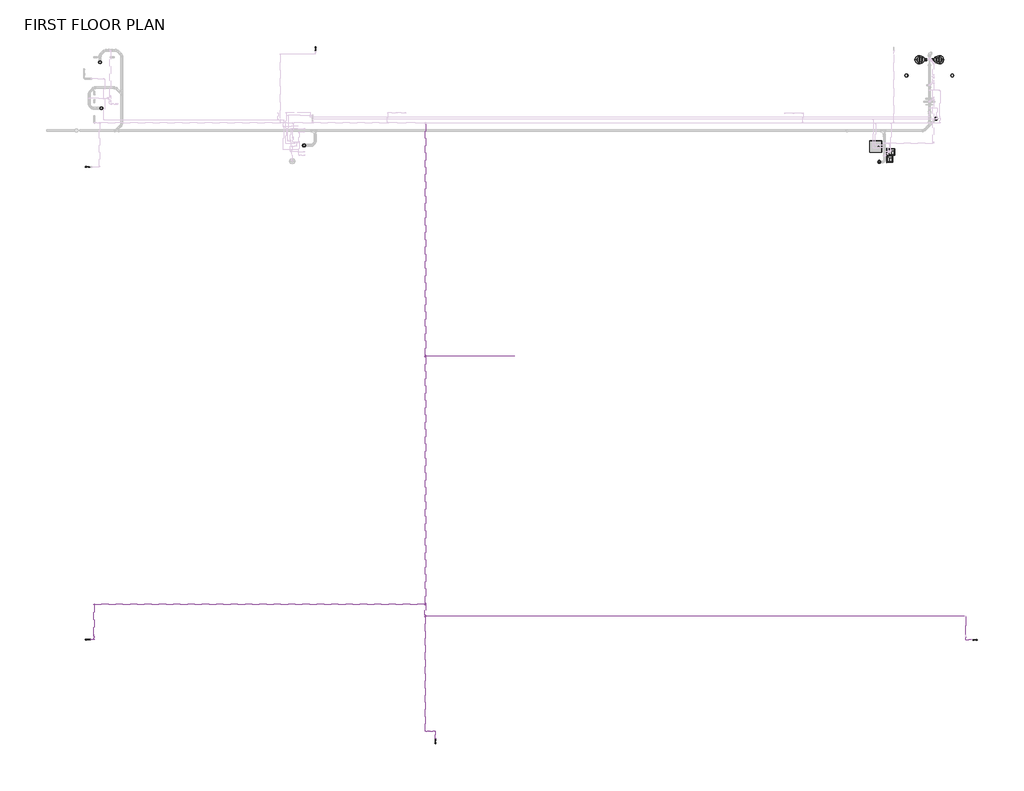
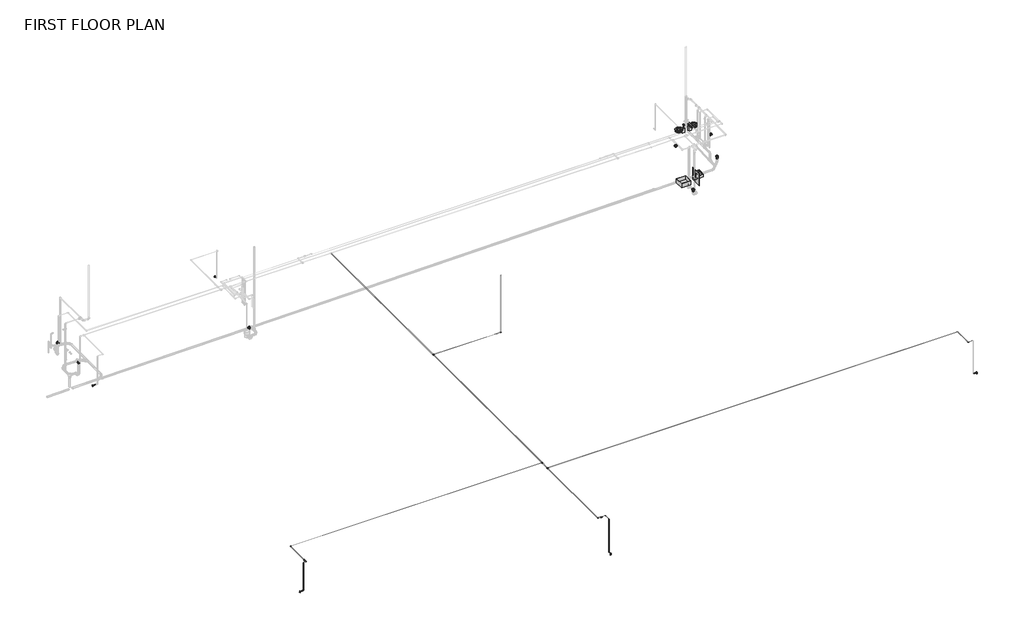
# One storey, part 1 of 9: 24 pipe fittings, 22 pipe segments, 16 flow terminals.
"""IFC4 building model written with IfcOpenShell, lengths in millimetres."""

from ifc_helpers import new_model, si_unit, point, frame, frame_2d, origin, place, context, project, spatial, circle_curve, trimmed, segment, composite_curve, outline, extrude, transform, mapped, element, save
from ifc_brep_helpers import plane_surface, cylinder_surface, advanced_brep
from components import flow_terminal_489f333d, flow_terminal_d4e15b29, flow_terminal_13f0a478, flow_terminal_5c41af1d, flow_terminal_15068827, floor_cleanout_zurn_zn1400_ic_d83c3ab9, flow_terminal_99821c54, flow_terminal_257a6d76, flow_terminal_48090491, flow_terminal_a41eccac, pipe_elbow_copper_k_feaaf02c, pipe_elbow_copper_k_c94ec8ca, pipe_elbow_copper_k_5802a6b4, pipe_elbow_copper_k_708d2ba0, pipe_elbow_copper_k_e016d333, pipe_tee_copper_k_9c2f566c, pipe_tee_copper_k_7127fd44, pipe_tee_copper_k_9bebaef1, pipe_transition_copper_k_d15df449, pipe_transition_copper_k_7e8567c1, pipe_transition_copper_k_5615079d

model = new_model("IFC4")

# Units and contexts
model_context = context("Model", 3, world=origin())
ifc_project = project(units=[si_unit("LENGTHUNIT", "METRE", prefix="MILLI")], contexts=[model_context])

# Site, building, storey
site = spatial("IfcSite", under=ifc_project)
building = spatial("IfcBuilding", under=site)
storey = spatial("IfcBuildingStorey", under=building, Name="FIRST FLOOR PLAN", Elevation=0.0)

# Flow terminals
placement = place(None, origin())
flow_terminal_shape = flow_terminal_489f333d(model_context)
element("IfcFlowTerminal", 1, ObjectType="Drinking Fountain-Hi-Lo-3D : Drinking Fountain-Hi-Lo-3D", at=placement, inside=storey, context=model_context, shape_type="MappedRepresentation", body=[
    mapped(flow_terminal_shape, transform((34892.2671037, 3698.2790836, 0.0), x_axis=(0.0, 1.0, 0.0), y_axis=(-1.0, 0.0, 0.0), z_axis=(0.0, 0.0, 1.0))),
])
flow_terminal_2_shape = flow_terminal_d4e15b29(model_context)
element("IfcFlowTerminal", 2, ObjectType="Floor Drain - Rectangular : 5\"x5\" Strainer - 3\" Drain", at=placement, inside=storey, context=model_context, shape_type="MappedRepresentation", body=[
    mapped(flow_terminal_2_shape, transform((36095.6921037, 8620.1105294, 0.0), x_axis=(1.0, 0.0, 0.0), y_axis=(0.0, 1.0, 0.0), z_axis=(0.0, 0.0, 1.0))),
])
flow_terminal_3_shape = flow_terminal_13f0a478(model_context)
element("IfcFlowTerminal", 3, ObjectType="Floor Drain - Rectangular : 5\"x5\" Strainer - 3\" Drain", at=placement, inside=storey, context=model_context, shape_type="MappedRepresentation", body=[
    mapped(flow_terminal_3_shape, transform((38921.2421037, 8620.1105294, 0.0), x_axis=(-1.0, 0.0, 0.0), y_axis=(0.0, -1.0, 0.0), z_axis=(0.0, 0.0, 1.0))),
])
flow_terminal_4_shape = flow_terminal_5c41af1d(model_context)
element("IfcFlowTerminal", 4, ObjectType="Floor Drain - Round : 5\" Strainer - 4\" Drain", at=placement, inside=storey, context=model_context, shape_type="MappedRepresentation", body=[
    mapped(flow_terminal_4_shape, transform((-13588.3515551, 9432.9105294, 0.0), x_axis=(0.0, 1.0, 0.0), y_axis=(-1.0, 0.0, 0.0), z_axis=(0.0, 0.0, 1.0))),
])
element("IfcFlowTerminal", 5, ObjectType="Floor Drain - Round : 5\" Strainer - 4\" Drain", at=placement, inside=storey, context=model_context, shape_type="MappedRepresentation", body=[
    mapped(flow_terminal_4_shape, transform((-13505.2565377, 6602.5744507, 0.0), x_axis=(-1.0, 0.0, 0.0), y_axis=(0.0, -1.0, 0.0), z_axis=(0.0, 0.0, 1.0))),
])
flow_terminal_5_shape = flow_terminal_15068827(model_context)
element("IfcFlowTerminal", 6, ObjectType="Floor Drain - Round : 5\" Strainer - 4\" Drain", at=placement, inside=storey, context=model_context, shape_type="MappedRepresentation", body=[
    mapped(flow_terminal_5_shape, transform((-1010.3942675, 4317.2313881, 0.0), x_axis=(1.0, 0.0, 0.0), y_axis=(0.0, 1.0, 0.0), z_axis=(0.0, 0.0, 1.0))),
])
floor_cleanout_zurn_zn1400_ic_shape = floor_cleanout_zurn_zn1400_ic_d83c3ab9(model_context)
element("IfcFlowTerminal", 7, ObjectType="Floor_Cleanout-Zurn-ZN1400-IC : 7-1/4\" x 9-1/8\" x D4\"", at=placement, inside=storey, context=model_context, shape_type="MappedRepresentation", body=[
    mapped(floor_cleanout_zurn_zn1400_ic_shape, transform((37921.0175748, 5963.3535695, -3.4395833), x_axis=(1.0, 0.0, 0.0), y_axis=(0.0, 1.0, 0.0), z_axis=(0.0, 0.0, 1.0))),
])
element("IfcFlowTerminal", 8, ObjectType="Floor_Cleanout-Zurn-ZN1400-IC : 7-1/4\" x 9-1/8\" x D4\"", at=placement, inside=storey, context=model_context, shape_type="MappedRepresentation", body=[
    mapped(floor_cleanout_zurn_zn1400_ic_shape, transform((34433.0661844, 3290.6145764, 0.0), x_axis=(1.0, 0.0, 0.0), y_axis=(0.0, 1.0, 0.0), z_axis=(0.0, 0.0, 1.0))),
])
flow_terminal_6_shape = flow_terminal_99821c54(model_context)
element("IfcFlowTerminal", 9, ObjectType="GES WALL HYDRANT : 6\" Wall Thickness", at=placement, inside=storey, context=model_context, shape_type="MappedRepresentation", body=[
    mapped(flow_terminal_6_shape, transform((-14465.8078963, 2991.7105294, 438.0), x_axis=(0.0, -1.0, 0.0), y_axis=(0.0, 0.0, 1.0), z_axis=(-1.0, 0.0, 0.0))),
])
element("IfcFlowTerminal", 10, ObjectType="GES WALL HYDRANT : 6\" Wall Thickness", at=placement, inside=storey, context=model_context, shape_type="MappedRepresentation", body=[
    mapped(flow_terminal_6_shape, transform((-14465.8078963, -26140.8269706, 438.0), x_axis=(0.0, -1.0, 0.0), y_axis=(0.0, 0.0, 1.0), z_axis=(-1.0, 0.0, 0.0))),
])
element("IfcFlowTerminal", 11, ObjectType="GES WALL HYDRANT : 6\" Wall Thickness", at=placement, inside=storey, context=model_context, shape_type="MappedRepresentation", body=[
    mapped(flow_terminal_6_shape, transform((7070.7946037, -32532.2894706, 0.0), x_axis=(1.0, 0.0, 0.0), y_axis=(0.0, 0.0, 1.0), z_axis=(0.0, -1.0, 0.0))),
])
element("IfcFlowTerminal", 12, ObjectType="GES WALL HYDRANT : 6\" Wall Thickness", at=placement, inside=storey, context=model_context, shape_type="MappedRepresentation", body=[
    mapped(flow_terminal_6_shape, transform((40438.9921037, -26150.0092959, 0.0), x_axis=(0.0, 1.0, 0.0), y_axis=(0.0, 0.0, 1.0), z_axis=(1.0, 0.0, 0.0))),
])
element("IfcFlowTerminal", 13, ObjectType="GES WALL HYDRANT : 6\" Wall Thickness", at=placement, inside=storey, context=model_context, shape_type="MappedRepresentation", body=[
    mapped(flow_terminal_6_shape, transform((-301.2378963, 10366.3605294, 381.0), x_axis=(-1.0, 0.0, 0.0), y_axis=(0.0, 0.0, 1.0), z_axis=(0.0, 1.0, 0.0))),
])
flow_terminal_7_shape = flow_terminal_257a6d76(model_context)
element("IfcFlowTerminal", 14, ObjectType="Sink - Mop : 28\"x28\"", at=placement, inside=storey, context=model_context, shape_type="MappedRepresentation", body=[
    mapped(flow_terminal_7_shape, transform((33825.4671037, 4587.8605294, 0.0), x_axis=(0.0, -1.0, 0.0), y_axis=(1.0, 0.0, 0.0), z_axis=(0.0, 0.0, 1.0))),
])
flow_terminal_8_shape = flow_terminal_48090491(model_context)
element("IfcFlowTerminal", 15, ObjectType="Toilet-Commercial-Wall-3D : 19\" Seat Height", at=placement, inside=storey, context=model_context, shape_type="MappedRepresentation", body=[
    mapped(flow_terminal_8_shape, transform((37660.8671037, 9999.7386832, 0.0), x_axis=(0.0, -1.0, 0.0), y_axis=(1.0, 0.0, 0.0), z_axis=(0.0, 0.0, 1.0))),
])
flow_terminal_9_shape = flow_terminal_a41eccac(model_context)
element("IfcFlowTerminal", 16, ObjectType="Toilet-Commercial-Wall-3D : 19\" Seat Height", at=placement, inside=storey, context=model_context, shape_type="MappedRepresentation", body=[
    mapped(flow_terminal_9_shape, transform((37356.0671037, 9999.7386832, 0.0), x_axis=(0.0, -1.0, 0.0), y_axis=(1.0, 0.0, 0.0), z_axis=(0.0, 0.0, 1.0))),
])

# Pipe fittings
pipe_elbow_copper_k_shape = pipe_elbow_copper_k_feaaf02c(model_context)
element("IfcPipeFitting", 17, ObjectType="Pipe Elbow : Copper- K", at=placement, inside=storey, context=model_context, shape_type="MappedRepresentation", body=[
    mapped(pipe_elbow_copper_k_shape, transform((-14181.6455081, -26140.8269706, 467.36875), x_axis=(1.0, 0.0, 0.0), y_axis=(0.0, 0.0, 1.0), z_axis=(0.0, -1.0, 0.0))),
])
element("IfcPipeFitting", 18, ObjectType="Pipe Elbow : Copper- K", at=placement, inside=storey, context=model_context, shape_type="MappedRepresentation", body=[
    mapped(pipe_elbow_copper_k_shape, transform((-14181.6455081, -26140.8269706, 2847.5440079), x_axis=(0.0, 0.0, 1.0), y_axis=(1.0, 0.0, 0.0), z_axis=(0.0, 1.0, 0.0))),
])
element("IfcPipeFitting", 19, ObjectType="Pipe Elbow : Copper- K", at=placement, inside=storey, context=model_context, shape_type="MappedRepresentation", body=[
    mapped(pipe_elbow_copper_k_shape, transform((-13965.2329088, -26140.8269706, 2847.5440079), x_axis=(1.0, 0.0, 0.0), y_axis=(0.0, 0.9999988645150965, 0.0015069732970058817), z_axis=(0.0, -0.0015069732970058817, 0.9999988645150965))),
])
element("IfcPipeFitting", 20, ObjectType="Pipe Elbow : Copper- K", at=placement, inside=storey, context=model_context, shape_type="MappedRepresentation", body=[
    mapped(pipe_elbow_copper_k_shape, transform((7070.7946037, -32248.1270824, 29.36875), x_axis=(0.0, 1.0, 0.0), y_axis=(0.0, 0.0, 1.0), z_axis=(1.0, 0.0, 0.0))),
])
element("IfcPipeFitting", 21, ObjectType="Pipe Elbow : Copper- K", at=placement, inside=storey, context=model_context, shape_type="MappedRepresentation", body=[
    mapped(pipe_elbow_copper_k_shape, transform((7070.7946037, -31781.7564866, 2850.6538775), x_axis=(0.0, 1.0, 0.0), y_axis=(-0.9999999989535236, 0.0, 4.574880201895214e-05), z_axis=(4.574880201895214e-05, 0.0, 0.9999999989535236))),
])
element("IfcPipeFitting", 22, ObjectType="Pipe Elbow : Copper- K", at=placement, inside=storey, context=model_context, shape_type="MappedRepresentation", body=[
    mapped(pipe_elbow_copper_k_shape, transform((39753.2898627, -26150.0092959, 2862.2625), x_axis=(0.0, -0.9999999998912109, -1.4750529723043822e-05), y_axis=(1.0, 0.0, 0.0), z_axis=(0.0, -1.4750529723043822e-05, 0.9999999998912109))),
])
pipe_elbow_copper_k_2_shape = pipe_elbow_copper_k_c94ec8ca(model_context)
element("IfcPipeFitting", 23, ObjectType="Pipe Elbow : Copper- K", at=placement, inside=storey, context=model_context, shape_type="MappedRepresentation", body=[
    mapped(pipe_elbow_copper_k_2_shape, transform((6453.8921037, -31781.7564866, 2850.6820712), x_axis=(0.0, -0.9999999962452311, 8.665758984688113e-05), y_axis=(0.9999999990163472, -3.843638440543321e-09, -4.4354319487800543e-05), z_axis=(4.435431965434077e-05, 8.665758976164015e-05, 0.9999999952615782))),
])
pipe_elbow_copper_k_3_shape = pipe_elbow_copper_k_5802a6b4(model_context)
element("IfcPipeFitting", 24, ObjectType="Pipe Elbow : Copper- K", at=placement, inside=storey, context=model_context, shape_type="MappedRepresentation", body=[
    mapped(pipe_elbow_copper_k_3_shape, transform((-13965.2329088, -23958.9301876, 2850.8009716), x_axis=(-0.999999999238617, 0.0, 3.90226338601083e-05), y_axis=(-5.880606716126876e-08, -0.9999988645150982, -0.0015069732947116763), z_axis=(3.902258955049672e-05, -0.0015069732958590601, 0.999998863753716))),
])
pipe_elbow_copper_k_4_shape = pipe_elbow_copper_k_708d2ba0(model_context)
element("IfcPipeFitting", 25, ObjectType="Pipe Elbow : Copper- K", at=placement, inside=storey, context=model_context, shape_type="MappedRepresentation", body=[
    mapped(pipe_elbow_copper_k_4_shape, transform((7070.7946037, -32248.1270824, 2850.6539076), x_axis=(0.0, 0.0, 1.0), y_axis=(0.0, 1.0, 0.0), z_axis=(-1.0, 0.0, 0.0))),
])
pipe_elbow_copper_k_5_shape = pipe_elbow_copper_k_e016d333(model_context)
element("IfcPipeFitting", 26, ObjectType="Pipe Elbow : Copper- K", at=placement, inside=storey, context=model_context, shape_type="MappedRepresentation", body=[
    mapped(pipe_elbow_copper_k_5_shape, transform((11940.2891601, -8667.2333885, 2854.3623147), x_axis=(0.9999994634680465, 0.0, 0.0010358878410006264), y_axis=(-0.0010358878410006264, 0.0, 0.9999994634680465), z_axis=(0.0, -1.0, 0.0))),
])
pipe_tee_copper_k_shape = pipe_tee_copper_k_9c2f566c(model_context)
element("IfcPipeFitting", 27, ObjectType="Pipe Tee : Copper- K", at=placement, inside=storey, context=model_context, shape_type="MappedRepresentation", body=[
    mapped(pipe_tee_copper_k_shape, transform((6453.8921037, -24688.6643638, 2850.067401), x_axis=(0.0, -0.9999999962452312, 8.665758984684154e-05), y_axis=(-0.9999999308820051, -3.22193787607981e-08, -0.00037180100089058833), z_axis=(0.0003718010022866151, -8.665758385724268e-05, -0.9999999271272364))),
])
pipe_tee_copper_k_2_shape = pipe_tee_copper_k_7127fd44(model_context)
element("IfcPipeFitting", 28, ObjectType="Pipe Tee : Copper- K", at=placement, inside=storey, context=model_context, shape_type="MappedRepresentation", body=[
    mapped(pipe_tee_copper_k_2_shape, transform((6453.8921037, -23958.930186, 2850.004164), x_axis=(0.0, -0.9999999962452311, 8.665758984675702e-05), y_axis=(0.9999999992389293, -3.3809137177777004e-09, -3.901462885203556e-05), z_axis=(3.901462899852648e-05, 8.665758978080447e-05, 0.9999999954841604))),
])
pipe_tee_copper_k_3_shape = pipe_tee_copper_k_9bebaef1(model_context)
element("IfcPipeFitting", 29, ObjectType="Pipe Tee : Copper- K", at=placement, inside=storey, context=model_context, shape_type="MappedRepresentation", body=[
    mapped(pipe_tee_copper_k_3_shape, transform((6453.8921037, -8667.2333885, 2848.6790224), x_axis=(0.0, -0.9999999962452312, 8.665758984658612e-05), y_axis=(-0.9999994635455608, -8.976105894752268e-08, -0.0010358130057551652), z_axis=(0.0010358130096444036, -8.665754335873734e-05, -0.9999994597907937))),
])
pipe_transition_copper_k_shape = pipe_transition_copper_k_d15df449(model_context)
element("IfcPipeFitting", 30, ObjectType="Pipe Transition : Copper- K", at=placement, inside=storey, context=model_context, shape_type="MappedRepresentation", body=[
    mapped(pipe_transition_copper_k_shape, transform((6453.8921037, -24725.1768637, 2850.0705651), x_axis=(0.0, -0.9999999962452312, 8.665758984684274e-05), y_axis=(0.999999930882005, 3.221937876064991e-08, 0.00037180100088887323), z_axis=(-0.0003718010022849, 8.665758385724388e-05, 0.9999999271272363))),
])
element("IfcPipeFitting", 31, ObjectType="Pipe Transition : Copper- K", at=placement, inside=storey, context=model_context, shape_type="MappedRepresentation", body=[
    mapped(pipe_transition_copper_k_shape, transform((6417.3796037, -23958.9301859, 2850.0055885), x_axis=(-0.9999999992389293, 3.3809121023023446e-09, 3.90146288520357e-05), y_axis=(0.0, -0.9999999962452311, 8.665758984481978e-05), z_axis=(3.901462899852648e-05, 8.66575897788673e-05, 0.9999999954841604))),
])
element("IfcPipeFitting", 32, ObjectType="Pipe Transition : Copper- K", at=placement, inside=storey, context=model_context, shape_type="MappedRepresentation", body=[
    mapped(pipe_transition_copper_k_shape, transform((6490.4046012, -24688.6643638, 2850.0809764), x_axis=(0.9999999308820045, 0.0, 0.00037180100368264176), y_axis=(3.221937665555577e-08, 0.9999999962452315, -8.665757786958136e-05), z_axis=(-0.0003718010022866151, 8.665758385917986e-05, 0.9999999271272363))),
])
element("IfcPipeFitting", 33, ObjectType="Pipe Transition : Copper- K", at=placement, inside=storey, context=model_context, shape_type="MappedRepresentation", body=[
    mapped(pipe_transition_copper_k_shape, transform((6490.4045841, -8667.2333885, 2848.7168425), x_axis=(0.9999994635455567, 0.0, 0.0010358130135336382), y_axis=(8.97610111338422e-08, 0.9999999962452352, -8.665749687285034e-05), z_axis=(-0.001035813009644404, 8.665754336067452e-05, 0.9999994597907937))),
])
pipe_transition_copper_k_2_shape = pipe_transition_copper_k_7e8567c1(model_context)
element("IfcPipeFitting", 34, ObjectType="Pipe Transition : Copper- K", at=placement, inside=storey, context=model_context, shape_type="MappedRepresentation", body=[
    mapped(pipe_transition_copper_k_2_shape, transform((6694.6847086, -31781.7564866, 2850.671084), x_axis=(0.9999999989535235, 0.0, -4.5748802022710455e-05), y_axis=(0.0, 1.0, 0.0), z_axis=(4.5748802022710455e-05, 0.0, 0.9999999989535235))),
])
element("IfcPipeFitting", 35, ObjectType="Pipe Transition : Copper- K", at=placement, inside=storey, context=model_context, shape_type="MappedRepresentation", body=[
    mapped(pipe_transition_copper_k_2_shape, transform((6785.9024585, -31781.7564866, 2850.6669109), x_axis=(-0.9999999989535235, 0.0, 4.5748802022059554e-05), y_axis=(0.0, -1.0, 0.0), z_axis=(4.5748802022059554e-05, 0.0, 0.9999999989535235))),
])
element("IfcPipeFitting", 36, ObjectType="Pipe Transition : Copper- K", at=placement, inside=storey, context=model_context, shape_type="MappedRepresentation", body=[
    mapped(pipe_transition_copper_k_2_shape, transform((-13965.2329088, -25859.7332674, 2847.963825), x_axis=(0.0, -0.9999988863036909, -0.0014924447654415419), y_axis=(1.0, 0.0, 0.0), z_axis=(0.0, -0.0014924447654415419, 0.9999988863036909))),
])
element("IfcPipeFitting", 37, ObjectType="Pipe Transition : Copper- K", at=placement, inside=storey, context=model_context, shape_type="MappedRepresentation", body=[
    mapped(pipe_transition_copper_k_2_shape, transform((-13965.2329088, -25950.9509158, 2847.8276876), x_axis=(0.0, 0.9999988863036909, 0.001492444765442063), y_axis=(-1.0, 0.0, 0.0), z_axis=(0.0, -0.001492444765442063, 0.9999988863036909))),
])
pipe_transition_copper_k_3_shape = pipe_transition_copper_k_5615079d(model_context)
element("IfcPipeFitting", 38, ObjectType="Pipe Transition : Copper- K", at=placement, inside=storey, context=model_context, shape_type="MappedRepresentation", body=[
    mapped(pipe_transition_copper_k_3_shape, transform((6453.8921037, -23922.4176862, 2850.0009999), x_axis=(0.0, 0.9999999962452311, -8.665758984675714e-05), y_axis=(-0.9999999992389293, 3.380913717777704e-09, 3.901462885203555e-05), z_axis=(3.901462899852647e-05, 8.665758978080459e-05, 0.9999999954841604))),
])
element("IfcPipeFitting", 39, ObjectType="Pipe Transition : Copper- K", at=placement, inside=storey, context=model_context, shape_type="MappedRepresentation", body=[
    mapped(pipe_transition_copper_k_3_shape, transform((6453.8921037, -8630.7208886, 2848.6758583), x_axis=(0.0, 0.9999999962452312, -8.665758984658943e-05), y_axis=(-0.9999994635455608, -8.976105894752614e-08, -0.0010358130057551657), z_axis=(-0.001035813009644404, 8.665754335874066e-05, 0.9999994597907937))),
])
element("IfcPipeFitting", 40, ObjectType="Pipe Transition : Copper- K", at=placement, inside=storey, context=model_context, shape_type="MappedRepresentation", body=[
    mapped(pipe_transition_copper_k_3_shape, transform((6453.8921037, -8703.7458883, 2848.6821865), x_axis=(0.0, -0.9999999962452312, 8.665758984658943e-05), y_axis=(0.9999994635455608, 8.97610589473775e-08, 0.0010358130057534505), z_axis=(-0.0010358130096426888, 8.665754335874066e-05, 0.9999994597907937))),
])

# Pipe segments
element("IfcPipeSegment", 41, ObjectType="Copper", at=placement, inside=storey, context=model_context, shape_type="SweptSolid", body=[
    extrude(outline(composite_curve([segment(trimmed(circle_curve(frame_2d((0.0, 11.1125)), 11.1125), [point((0.0, 0.0))], [point((-11.1124999, 11.1125))], False, "CARTESIAN"), True, "CONTINUOUS"), segment(trimmed(circle_curve(frame_2d((0.0, 11.1125)), 11.1125), [point((-11.1124999, 11.1125))], [point((0.0, 22.225))], False, "CARTESIAN"), True, "CONTINUOUS"), segment(trimmed(circle_curve(frame_2d((0.0, 11.1125)), 11.1125), [point((0.0, 22.225))], [point((11.1125, 11.1125))], False, "CARTESIAN"), True, "CONTINUOUS"), segment(trimmed(circle_curve(frame_2d((0.0, 11.1125)), 11.1125), [point((11.1125, 11.1125))], [point((0.0, 0.0))], False, "CARTESIAN"), True, "CONTINUOUS")], self_intersect=False)), frame((6442.7796037, -24735.4956137, 2850.0714593), z_axis=(0.0, -0.9999999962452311, 8.665758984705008e-05), x_axis=(0.0, -8.665758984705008e-05, -0.9999999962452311)), (0.0, 0.0, 1.0), 7025.6233993),
])
element("IfcPipeSegment", 42, ObjectType="Copper", at=placement, inside=storey, context=model_context, shape_type="SweptSolid", body=[
    extrude(outline(composite_curve([segment(trimmed(circle_curve(frame_2d((0.0, -11.1125)), 11.1125), [point((-11.1125, -11.1125))], [point((0.0, 0.0))], False, "CARTESIAN"), True, "CONTINUOUS"), segment(trimmed(circle_curve(frame_2d((0.0, -11.1125)), 11.1125), [point((0.0, 0.0))], [point((11.1125, -11.1125))], False, "CARTESIAN"), True, "CONTINUOUS"), segment(trimmed(circle_curve(frame_2d((0.0, -11.1125)), 11.1125), [point((11.1125, -11.1125))], [point((0.0, -22.225))], False, "CARTESIAN"), True, "CONTINUOUS"), segment(trimmed(circle_curve(frame_2d((0.0, -11.1125)), 11.1125), [point((0.0, -22.225))], [point((-11.1125, -11.1125))], False, "CARTESIAN"), True, "CONTINUOUS")], self_intersect=False)), frame((7050.1565953, -31781.7564866, 2839.5423216), z_axis=(-0.9999999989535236, 0.0, 4.574880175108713e-05), x_axis=(0.0, 1.0, 0.0)), (0.0, 0.0, 1.0), 264.2546455),
])
element("IfcPipeSegment", 43, ObjectType="Copper", at=placement, inside=storey, context=model_context, shape_type="SweptSolid", body=[
    extrude(outline(composite_curve([segment(trimmed(circle_curve(frame_2d((2850.6538775, 7070.7946037)), 11.1125), [point((2850.6538775, 7059.6821037))], [point((2839.5413775, 7070.7946037))], False, "CARTESIAN"), True, "CONTINUOUS"), segment(trimmed(circle_curve(frame_2d((2850.6538775, 7070.7946037)), 11.1125), [point((2839.5413775, 7070.7946037))], [point((2850.6538775, 7081.9071037))], False, "CARTESIAN"), True, "CONTINUOUS"), segment(trimmed(circle_curve(frame_2d((2850.6538775, 7070.7946037)), 11.1125), [point((2850.6538775, 7081.9071037))], [point((2861.7663775, 7070.7946037))], False, "CARTESIAN"), True, "CONTINUOUS"), segment(trimmed(circle_curve(frame_2d((2850.6538775, 7070.7946037)), 11.1125), [point((2861.7663775, 7070.7946037))], [point((2850.6538775, 7059.6821037))], False, "CARTESIAN"), True, "CONTINUOUS")], self_intersect=False)), frame((0.0, -32227.489581, 0.0), z_axis=(0.0, 1.0, 0.0), x_axis=(0.0, 0.0, 1.0)), (0.0, 0.0, 1.0), 425.0955944),
])
element("IfcPipeSegment", 44, ObjectType="Copper", at=placement, inside=storey, context=model_context, shape_type="SweptSolid", body=[
    extrude(outline(composite_curve([segment(trimmed(circle_curve(frame_2d((0.0, 11.1125)), 11.1125), [point((-11.1125, 11.1125))], [point((0.0, 22.225))], False, "CARTESIAN"), True, "CONTINUOUS"), segment(trimmed(circle_curve(frame_2d((0.0, 11.1125)), 11.1125), [point((0.0, 22.225))], [point((11.1125, 11.1125))], False, "CARTESIAN"), True, "CONTINUOUS"), segment(trimmed(circle_curve(frame_2d((0.0, 11.1125)), 11.1125), [point((11.1125, 11.1125))], [point((0.0, 0.0))], False, "CARTESIAN"), True, "CONTINUOUS"), segment(trimmed(circle_curve(frame_2d((0.0, 11.1125)), 11.1125), [point((0.0, 0.0))], [point((-11.1125, 11.1125))], False, "CARTESIAN"), True, "CONTINUOUS")], self_intersect=False)), frame((6500.7274273, -24688.6643638, 2838.9723136), z_axis=(0.9999999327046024, 0.0, 0.0003668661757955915), x_axis=(0.0, 1.0, 0.0)), (0.0, 0.0, 1.0), 33231.9312499),
])
element("IfcPipeSegment", 45, ObjectType="Copper", at=placement, inside=storey, context=model_context, shape_type="SweptSolid", body=[
    extrude(outline(composite_curve([segment(trimmed(circle_curve(frame_2d((0.0, 20.6375)), 20.6375), [point((0.0, 0.0))], [point((-20.6375, 20.6375))], False, "CARTESIAN"), True, "CONTINUOUS"), segment(trimmed(circle_curve(frame_2d((0.0, 20.6375)), 20.6375), [point((-20.6375, 20.6375))], [point((0.0, 41.275))], False, "CARTESIAN"), True, "CONTINUOUS"), segment(trimmed(circle_curve(frame_2d((0.0, 20.6375)), 20.6375), [point((0.0, 41.275))], [point((20.6375001, 20.6375))], False, "CARTESIAN"), True, "CONTINUOUS"), segment(trimmed(circle_curve(frame_2d((0.0, 20.6375)), 20.6375), [point((20.6375001, 20.6375))], [point((0.0, 0.0))], False, "CARTESIAN"), True, "CONTINUOUS")], self_intersect=False)), frame((6433.2546037, -23995.4426859, 2850.0073281), z_axis=(0.0, -0.9999999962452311, 8.665758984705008e-05), x_axis=(0.0, -8.665758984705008e-05, -0.9999999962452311)), (0.0, 0.0, 1.0), 656.7091805),
])
element("IfcPipeSegment", 46, ObjectType="Copper", at=placement, inside=storey, context=model_context, shape_type="AdvancedBrep", body=[
    advanced_brep(
    [(6407.0608537, -23947.8176859, 2850.0059911), (6407.0612874, -23958.9301859, 2861.1184911), (6407.0608537, -23970.0426859, 2850.0059911), (6407.0604201, -23958.9301859, 2838.8934911), (-13944.5954076, -23947.8176876, 2850.8001663), (-13944.5958412, -23958.9301876, 2839.6876663), (-13944.5954076, -23970.0426876, 2850.8001663), (-13944.594974, -23958.9301876, 2861.9126663)],
    [
        (0, 1, circle_curve(frame((6407.0608537, -23958.9301859, 2850.0059911), z_axis=(0.999999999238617, 0.0, -3.902263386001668e-05), x_axis=(0.0, 1.0, 0.0)), 11.1125)),
        (1, 2, circle_curve(frame((6407.0608537, -23958.9301859, 2850.0059911), z_axis=(0.999999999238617, 0.0, -3.902263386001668e-05), x_axis=(0.0, 1.0, 0.0)), 11.1125)),
        (2, 3, circle_curve(frame((6407.0608537, -23958.9301859, 2850.0059911), z_axis=(0.999999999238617, 0.0, -3.902263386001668e-05), x_axis=(0.0, 1.0, 0.0)), 11.1125)),
        (3, 0, circle_curve(frame((6407.0608537, -23958.9301859, 2850.0059911), z_axis=(0.999999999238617, 0.0, -3.902263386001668e-05), x_axis=(0.0, 1.0, 0.0)), 11.1125)),
        (4, 5, circle_curve(frame((-13944.5954076, -23958.9301859, 2850.8001663), z_axis=(-0.999999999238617, 0.0, 3.902263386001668e-05), x_axis=(0.0, 1.0, 0.0)), 11.1124983)),
        (5, 6, circle_curve(frame((-13944.5954076, -23958.9301859, 2850.8001663), z_axis=(-0.999999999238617, 0.0, 3.902263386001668e-05), x_axis=(0.0, 1.0, 0.0)), 11.1125)),
        (6, 7, circle_curve(frame((-13944.5954076, -23958.9301859, 2850.8001663), z_axis=(-0.999999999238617, 0.0, 3.902263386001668e-05), x_axis=(0.0, 1.0, 0.0)), 11.1125017)),
        (7, 4, circle_curve(frame((-13944.5954076, -23958.9301859, 2850.8001663), z_axis=(-0.999999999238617, 0.0, 3.902263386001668e-05), x_axis=(0.0, 1.0, 0.0)), 11.1125)),
        (0, 4),
        (7, 1),
        (6, 2),
        (5, 3),
    ],
    [
        plane_surface(frame((6407.0604201, -23958.9301859, 2838.8934911), z_axis=(0.999999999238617, 0.0, -3.902263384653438e-05), x_axis=(0.0, -1.0, 0.0))),
        plane_surface(frame((-13944.5958412, -23958.9301876, 2839.6876663), z_axis=(-0.999999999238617, 0.0, 3.902263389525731e-05), x_axis=(0.0, -1.0, 0.0))),
        cylinder_surface(frame((6407.0608537, -23958.9301859, 2850.0059911), z_axis=(0.999999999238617, 0.0, -3.902263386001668e-05), x_axis=(0.0, 1.0, 0.0)), 11.1125),
    ],
    [
        (0, [[1, 2, 3, 4]]),
        (1, [[5, 6, 7, 8]]),
        (2, [[-1, 9, -8, 10]]),
        (2, [[-2, -10, -7, 11]]),
        (2, [[-3, -11, -6, 12]]),
        (2, [[-4, -12, -5, -9]]),
    ],
),
])
element("IfcPipeSegment", 47, ObjectType="Copper", at=placement, inside=storey, context=model_context, shape_type="SweptSolid", body=[
    extrude(outline(composite_curve([segment(trimmed(circle_curve(frame_2d((0.0, 11.1125)), 11.1125), [point((-11.1125, 11.1125))], [point((0.0, 22.2249999))], False, "CARTESIAN"), True, "CONTINUOUS"), segment(trimmed(circle_curve(frame_2d((0.0, 11.1125)), 11.1125), [point((0.0, 22.2249999))], [point((11.1125, 11.1125))], False, "CARTESIAN"), True, "CONTINUOUS"), segment(trimmed(circle_curve(frame_2d((0.0, 11.1125)), 11.1125), [point((11.1125, 11.1125))], [point((0.0, 0.0))], False, "CARTESIAN"), True, "CONTINUOUS"), segment(trimmed(circle_curve(frame_2d((0.0, 11.1125)), 11.1125), [point((0.0, 0.0))], [point((-11.1125, 11.1125))], False, "CARTESIAN"), True, "CONTINUOUS")], self_intersect=False)), frame((11560.8361058, -8667.2333885, 2842.8567377), z_axis=(0.9999994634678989, 0.0, 0.0010358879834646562), x_axis=(0.0, 1.0, 0.0)), (0.0, 0.0, 1.0), 358.8486362),
])
element("IfcPipeSegment", 48, ObjectType="Copper", at=placement, inside=storey, context=model_context, shape_type="SweptSolid", body=[
    extrude(outline(composite_curve([segment(trimmed(circle_curve(frame_2d((0.0, 14.2875)), 14.2875), [point((0.0, 0.0))], [point((-14.2875, 14.2875))], False, "CARTESIAN"), True, "CONTINUOUS"), segment(trimmed(circle_curve(frame_2d((0.0, 14.2875)), 14.2875), [point((-14.2875, 14.2875))], [point((0.0, 28.575))], False, "CARTESIAN"), True, "CONTINUOUS"), segment(trimmed(circle_curve(frame_2d((0.0, 14.2875)), 14.2875), [point((0.0, 28.575))], [point((14.2875001, 14.2875))], False, "CARTESIAN"), True, "CONTINUOUS"), segment(trimmed(circle_curve(frame_2d((0.0, 14.2875)), 14.2875), [point((14.2875001, 14.2875))], [point((0.0, 0.0))], False, "CARTESIAN"), True, "CONTINUOUS")], self_intersect=False)), frame((6439.6046037, -8714.0646383, 2848.6830807), z_axis=(0.0, -0.9999999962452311, 8.665758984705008e-05), x_axis=(0.0, -8.665758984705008e-05, -0.9999999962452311)), (0.0, 0.0, 1.0), 15198.034355),
])
element("IfcPipeSegment", 49, ObjectType="Copper", at=placement, inside=storey, context=model_context, shape_type="SweptSolid", body=[
    extrude(outline(composite_curve([segment(trimmed(circle_curve(frame_2d((-26140.8269706, 2847.5440079)), 11.1125), [point((-26129.7144706, 2847.5440079))], [point((-26140.8269706, 2836.4315079))], False, "CARTESIAN"), True, "CONTINUOUS"), segment(trimmed(circle_curve(frame_2d((-26140.8269706, 2847.5440079)), 11.1125), [point((-26140.8269706, 2836.4315079))], [point((-26151.9394706, 2847.5440079))], False, "CARTESIAN"), True, "CONTINUOUS"), segment(trimmed(circle_curve(frame_2d((-26140.8269706, 2847.5440079)), 11.1125), [point((-26151.9394706, 2847.5440079))], [point((-26140.8269706, 2858.6565079))], False, "CARTESIAN"), True, "CONTINUOUS"), segment(trimmed(circle_curve(frame_2d((-26140.8269706, 2847.5440079)), 11.1125), [point((-26140.8269706, 2858.6565079))], [point((-26129.7144706, 2847.5440079))], False, "CARTESIAN"), True, "CONTINUOUS")], self_intersect=False)), frame((-14161.0080081, 0.0, 0.0), z_axis=(1.0, 0.0, 0.0), x_axis=(0.0, 1.0, 0.0)), (0.0, 0.0, 1.0), 175.1375993),
])
element("IfcPipeSegment", 50, ObjectType="Copper", at=placement, inside=storey, context=model_context, shape_type="SweptSolid", body=[
    extrude(outline(composite_curve([segment(trimmed(circle_curve(frame_2d((-26140.8269706, 467.36875)), 11.1125), [point((-26151.9394706, 467.36875))], [point((-26140.8269706, 478.48125))], False, "CARTESIAN"), True, "CONTINUOUS"), segment(trimmed(circle_curve(frame_2d((-26140.8269706, 467.36875)), 11.1125), [point((-26140.8269706, 478.48125))], [point((-26129.7144706, 467.36875))], False, "CARTESIAN"), True, "CONTINUOUS"), segment(trimmed(circle_curve(frame_2d((-26140.8269706, 467.36875)), 11.1125), [point((-26129.7144706, 467.36875))], [point((-26140.8269706, 456.25625))], False, "CARTESIAN"), True, "CONTINUOUS"), segment(trimmed(circle_curve(frame_2d((-26140.8269706, 467.36875)), 11.1125), [point((-26140.8269706, 456.25625))], [point((-26151.9394706, 467.36875))], False, "CARTESIAN"), True, "CONTINUOUS")], self_intersect=False)), frame((-14227.6828963, 0.0, 0.0), z_axis=(1.0, 0.0, 0.0), x_axis=(0.0, 1.0, 0.0)), (0.0, 0.0, 1.0), 25.3998882),
])
element("IfcPipeSegment", 51, ObjectType="Copper", at=placement, inside=storey, context=model_context, shape_type="SweptSolid", body=[
    extrude(outline(composite_curve([segment(trimmed(circle_curve(frame_2d((-14181.6455081, -26140.8269706)), 11.1125), [point((-14192.7580081, -26140.8269706))], [point((-14181.6455081, -26129.7144706))], False, "CARTESIAN"), True, "CONTINUOUS"), segment(trimmed(circle_curve(frame_2d((-14181.6455081, -26140.8269706)), 11.1125), [point((-14181.6455081, -26129.7144706))], [point((-14170.5330081, -26140.8269706))], False, "CARTESIAN"), True, "CONTINUOUS"), segment(trimmed(circle_curve(frame_2d((-14181.6455081, -26140.8269706)), 11.1125), [point((-14170.5330081, -26140.8269706))], [point((-14181.6455081, -26151.9394706))], False, "CARTESIAN"), True, "CONTINUOUS"), segment(trimmed(circle_curve(frame_2d((-14181.6455081, -26140.8269706)), 11.1125), [point((-14181.6455081, -26151.9394706))], [point((-14192.7580081, -26140.8269706))], False, "CARTESIAN"), True, "CONTINUOUS")], self_intersect=False)), frame((0.0, 0.0, 488.00625), z_axis=(0.0, 0.0, 1.0), x_axis=(1.0, 0.0, 0.0)), (0.0, 0.0, 1.0), 2338.9002579),
])
element("IfcPipeSegment", 52, ObjectType="Copper", at=placement, inside=storey, context=model_context, shape_type="SweptSolid", body=[
    extrude(outline(composite_curve([segment(trimmed(circle_curve(frame_2d((0.0, -11.1125)), 11.1125), [point((0.0, 0.0))], [point((11.1125001, -11.1125))], False, "CARTESIAN"), True, "CONTINUOUS"), segment(trimmed(circle_curve(frame_2d((0.0, -11.1125)), 11.1125), [point((11.1125001, -11.1125))], [point((0.0, -22.225))], False, "CARTESIAN"), True, "CONTINUOUS"), segment(trimmed(circle_curve(frame_2d((0.0, -11.1125)), 11.1125), [point((0.0, -22.225))], [point((-11.1125, -11.1125))], False, "CARTESIAN"), True, "CONTINUOUS"), segment(trimmed(circle_curve(frame_2d((0.0, -11.1125)), 11.1125), [point((-11.1125, -11.1125))], [point((0.0, 0.0))], False, "CARTESIAN"), True, "CONTINUOUS")], self_intersect=False)), frame((-13976.3454088, -26120.1894941, 2847.5751081), z_axis=(0.0, 0.9999988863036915, 0.0014924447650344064), x_axis=(0.0, 0.0014924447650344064, -0.9999988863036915)), (0.0, 0.0, 1.0), 169.2387667),
])
element("IfcPipeSegment", 53, ObjectType="Copper", at=placement, inside=storey, context=model_context, shape_type="SweptSolid", body=[
    extrude(outline(composite_curve([segment(trimmed(circle_curve(frame_2d((29.36875, 7070.7946037)), 11.1125), [point((29.36875, 7081.9071037))], [point((40.48125, 7070.7946037))], False, "CARTESIAN"), True, "CONTINUOUS"), segment(trimmed(circle_curve(frame_2d((29.36875, 7070.7946037)), 11.1125), [point((40.48125, 7070.7946037))], [point((29.36875, 7059.6821037))], False, "CARTESIAN"), True, "CONTINUOUS"), segment(trimmed(circle_curve(frame_2d((29.36875, 7070.7946037)), 11.1125), [point((29.36875, 7059.6821037))], [point((18.25625, 7070.7946037))], False, "CARTESIAN"), True, "CONTINUOUS"), segment(trimmed(circle_curve(frame_2d((29.36875, 7070.7946037)), 11.1125), [point((18.25625, 7070.7946037))], [point((29.36875, 7081.9071037))], False, "CARTESIAN"), True, "CONTINUOUS")], self_intersect=False)), frame((0.0, -32294.1644706, 0.0), z_axis=(0.0, 1.0, 0.0), x_axis=(0.0, 0.0, 1.0)), (0.0, 0.0, 1.0), 25.3998882),
])
element("IfcPipeSegment", 54, ObjectType="Copper", at=placement, inside=storey, context=model_context, shape_type="SweptSolid", body=[
    extrude(outline(composite_curve([segment(trimmed(circle_curve(frame_2d((7070.7946037, -32248.1270824)), 11.1125), [point((7059.6821037, -32248.1270824))], [point((7070.7946037, -32237.0145824))], False, "CARTESIAN"), True, "CONTINUOUS"), segment(trimmed(circle_curve(frame_2d((7070.7946037, -32248.1270824)), 11.1125), [point((7070.7946037, -32237.0145824))], [point((7081.9071037, -32248.1270824))], False, "CARTESIAN"), True, "CONTINUOUS"), segment(trimmed(circle_curve(frame_2d((7070.7946037, -32248.1270824)), 11.1125), [point((7081.9071037, -32248.1270824))], [point((7070.7946037, -32259.2395824))], False, "CARTESIAN"), True, "CONTINUOUS"), segment(trimmed(circle_curve(frame_2d((7070.7946037, -32248.1270824)), 11.1125), [point((7070.7946037, -32259.2395824))], [point((7059.6821037, -32248.1270824))], False, "CARTESIAN"), True, "CONTINUOUS")], self_intersect=False)), frame((0.0, 0.0, 50.00625), z_axis=(0.0, 0.0, 1.0), x_axis=(1.0, 0.0, 0.0)), (0.0, 0.0, 1.0), 2780.0101563),
])
element("IfcPipeSegment", 55, ObjectType="Copper", at=placement, inside=storey, context=model_context, shape_type="SweptSolid", body=[
    extrude(outline(composite_curve([segment(trimmed(circle_curve(frame_2d((2862.2654527, 39753.2898627)), 11.1125), [point((2862.2654527, 39742.1773627))], [point((2851.1529527, 39753.2898627))], False, "CARTESIAN"), True, "CONTINUOUS"), segment(trimmed(circle_curve(frame_2d((2862.2654527, 39753.2898627)), 11.1125), [point((2851.1529527, 39753.2898627))], [point((2862.2654527, 39764.4023627))], False, "CARTESIAN"), True, "CONTINUOUS"), segment(trimmed(circle_curve(frame_2d((2862.2654527, 39753.2898627)), 11.1125), [point((2862.2654527, 39764.4023627))], [point((2873.3779527, 39753.2898627))], False, "CARTESIAN"), True, "CONTINUOUS"), segment(trimmed(circle_curve(frame_2d((2862.2654527, 39753.2898627)), 11.1125), [point((2873.3779527, 39753.2898627))], [point((2862.2654527, 39742.1773627))], False, "CARTESIAN"), True, "CONTINUOUS")], self_intersect=False)), frame((0.0, -26129.3717959, 0.0), z_axis=(0.0, 1.0, 0.0), x_axis=(0.0, 0.0, 1.0)), (0.0, 0.0, 1.0), 179.5395724),
])
element("IfcPipeSegment", 56, ObjectType="Copper", at=placement, inside=storey, context=model_context, shape_type="SweptSolid", body=[
    extrude(outline(composite_curve([segment(trimmed(circle_curve(frame_2d((-26150.0092959, 2862.2625)), 11.1125), [point((-26138.8967959, 2862.2625))], [point((-26150.0092959, 2851.15))], False, "CARTESIAN"), True, "CONTINUOUS"), segment(trimmed(circle_curve(frame_2d((-26150.0092959, 2862.2625)), 11.1125), [point((-26150.0092959, 2851.15))], [point((-26161.1217959, 2862.2625))], False, "CARTESIAN"), True, "CONTINUOUS"), segment(trimmed(circle_curve(frame_2d((-26150.0092959, 2862.2625)), 11.1125), [point((-26161.1217959, 2862.2625))], [point((-26150.0092959, 2873.375))], False, "CARTESIAN"), True, "CONTINUOUS"), segment(trimmed(circle_curve(frame_2d((-26150.0092959, 2862.2625)), 11.1125), [point((-26150.0092959, 2873.375))], [point((-26138.8967959, 2862.2625))], False, "CARTESIAN"), True, "CONTINUOUS")], self_intersect=False)), frame((39773.9273627, 0.0, 0.0), z_axis=(1.0, 0.0, 0.0), x_axis=(0.0, 1.0, 0.0)), (0.0, 0.0, 1.0), 360.2648527),
])
element("IfcPipeSegment", 57, ObjectType="Copper", at=placement, inside=storey, context=model_context, shape_type="SweptSolid", body=[
    extrude(outline(composite_curve([segment(trimmed(circle_curve(frame_2d((0.0, -11.1125)), 11.1125), [point((0.0, 0.0))], [point((11.1125, -11.1125))], False, "CARTESIAN"), True, "CONTINUOUS"), segment(trimmed(circle_curve(frame_2d((0.0, -11.1125)), 11.1125), [point((11.1125, -11.1125))], [point((0.0, -22.225))], False, "CARTESIAN"), True, "CONTINUOUS"), segment(trimmed(circle_curve(frame_2d((0.0, -11.1125)), 11.1125), [point((0.0, -22.225))], [point((-11.1125, -11.1125))], False, "CARTESIAN"), True, "CONTINUOUS"), segment(trimmed(circle_curve(frame_2d((0.0, -11.1125)), 11.1125), [point((-11.1125, -11.1125))], [point((0.0, 0.0))], False, "CARTESIAN"), True, "CONTINUOUS")], self_intersect=False)), frame((39742.1773627, -25858.6144736, 2862.2667982), z_axis=(0.0, 0.9999999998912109, 1.4750529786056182e-05), x_axis=(0.0, 1.4750529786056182e-05, -0.9999999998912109)), (0.0, 0.0, 1.0), 1149.3126098),
])
element("IfcPipeSegment", 58, ObjectType="Copper", at=placement, inside=storey, context=model_context, shape_type="SweptSolid", body=[
    extrude(outline(composite_curve([segment(trimmed(circle_curve(frame_2d((0.0, -11.1124999)), 11.1125), [point((-11.1125, -11.1124999))], [point((0.0, 0.0))], False, "CARTESIAN"), True, "CONTINUOUS"), segment(trimmed(circle_curve(frame_2d((0.0, -11.1124999)), 11.1125), [point((0.0, 0.0))], [point((11.1125, -11.1124999))], False, "CARTESIAN"), True, "CONTINUOUS"), segment(trimmed(circle_curve(frame_2d((0.0, -11.1124999)), 11.1125), [point((11.1125, -11.1124999))], [point((0.0, -22.2249999))], False, "CARTESIAN"), True, "CONTINUOUS"), segment(trimmed(circle_curve(frame_2d((0.0, -11.1124999)), 11.1125), [point((0.0, -22.2249999))], [point((-11.1125, -11.1124999))], False, "CARTESIAN"), True, "CONTINUOUS")], self_intersect=False)), frame((6694.6842002, -31781.7564866, 2839.5585841), z_axis=(-0.9999999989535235, 0.0, 4.5748802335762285e-05), x_axis=(0.0, 1.0, 0.0)), (0.0, 0.0, 1.0), 220.1551051),
])
element("IfcPipeSegment", 59, ObjectType="Copper", at=placement, inside=storey, context=model_context, shape_type="SweptSolid", body=[
    extrude(outline(composite_curve([segment(trimmed(circle_curve(frame_2d((0.0, -11.1125)), 11.1125), [point((0.0, 0.0))], [point((11.1125, -11.1125))], False, "CARTESIAN"), True, "CONTINUOUS"), segment(trimmed(circle_curve(frame_2d((0.0, -11.1125)), 11.1125), [point((11.1125, -11.1125))], [point((0.0, -22.225))], False, "CARTESIAN"), True, "CONTINUOUS"), segment(trimmed(circle_curve(frame_2d((0.0, -11.1125)), 11.1125), [point((0.0, -22.225))], [point((-11.1125001, -11.1125))], False, "CARTESIAN"), True, "CONTINUOUS"), segment(trimmed(circle_curve(frame_2d((0.0, -11.1125)), 11.1125), [point((-11.1125001, -11.1125))], [point((0.0, 0.0))], False, "CARTESIAN"), True, "CONTINUOUS")], self_intersect=False)), frame((-13976.3454088, -25859.7332674, 2847.963825), z_axis=(0.0, 0.9999988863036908, 0.0014924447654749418), x_axis=(0.0, 0.0014924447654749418, -0.9999988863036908)), (0.0, 0.0, 1.0), 1880.167696),
])
element("IfcPipeSegment", 60, ObjectType="Copper", at=placement, inside=storey, context=model_context, shape_type="SweptSolid", body=[
    extrude(outline(composite_curve([segment(trimmed(circle_curve(frame_2d((0.0, 14.2875)), 14.2875), [point((0.0, 0.0))], [point((-14.2875001, 14.2875))], False, "CARTESIAN"), True, "CONTINUOUS"), segment(trimmed(circle_curve(frame_2d((0.0, 14.2875)), 14.2875), [point((-14.2875001, 14.2875))], [point((0.0, 28.575))], False, "CARTESIAN"), True, "CONTINUOUS"), segment(trimmed(circle_curve(frame_2d((0.0, 14.2875)), 14.2875), [point((0.0, 28.575))], [point((14.2875, 14.2875))], False, "CARTESIAN"), True, "CONTINUOUS"), segment(trimmed(circle_curve(frame_2d((0.0, 14.2875)), 14.2875), [point((14.2875, 14.2875))], [point((0.0, 0.0))], False, "CARTESIAN"), True, "CONTINUOUS")], self_intersect=False)), frame((6439.6046037, 5640.1642801, 2847.4249206), z_axis=(0.0, -0.9999999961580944, 8.765735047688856e-05), x_axis=(0.0, -8.765735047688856e-05, -0.9999999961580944)), (0.0, 0.0, 1.0), 14260.5664735),
])
element("IfcPipeSegment", 61, ObjectType="Copper", at=placement, inside=storey, context=model_context, shape_type="SweptSolid", body=[
    extrude(outline(composite_curve([segment(trimmed(circle_curve(frame_2d((11940.2891601, -8667.2333885)), 11.1125), [point((11929.1766601, -8667.2333885))], [point((11940.2891601, -8656.1208885))], False, "CARTESIAN"), True, "CONTINUOUS"), segment(trimmed(circle_curve(frame_2d((11940.2891601, -8667.2333885)), 11.1125), [point((11940.2891601, -8656.1208885))], [point((11951.4016601, -8667.2333885))], False, "CARTESIAN"), True, "CONTINUOUS"), segment(trimmed(circle_curve(frame_2d((11940.2891601, -8667.2333885)), 11.1125), [point((11951.4016601, -8667.2333885))], [point((11940.2891601, -8678.3458885))], False, "CARTESIAN"), True, "CONTINUOUS"), segment(trimmed(circle_curve(frame_2d((11940.2891601, -8667.2333885)), 11.1125), [point((11940.2891601, -8678.3458885))], [point((11929.1766601, -8667.2333885))], False, "CARTESIAN"), True, "CONTINUOUS")], self_intersect=False)), frame((0.0, 0.0, 2874.9784476), z_axis=(0.0, 0.0, 1.0), x_axis=(1.0, 0.0, 0.0)), (0.0, 0.0, 1.0), 4856.1838671),
])
element("IfcPipeSegment", 62, ObjectType="Copper", at=placement, inside=storey, context=model_context, shape_type="SweptSolid", body=[
    extrude(outline(composite_curve([segment(trimmed(circle_curve(frame_2d((0.0, 11.1125)), 11.1125), [point((-11.1125, 11.1125))], [point((0.0, 22.2249999))], False, "CARTESIAN"), True, "CONTINUOUS"), segment(trimmed(circle_curve(frame_2d((0.0, 11.1125)), 11.1125), [point((0.0, 22.2249999))], [point((11.1125, 11.1125))], False, "CARTESIAN"), True, "CONTINUOUS"), segment(trimmed(circle_curve(frame_2d((0.0, 11.1125)), 11.1125), [point((11.1125, 11.1125))], [point((0.0, 0.0))], False, "CARTESIAN"), True, "CONTINUOUS"), segment(trimmed(circle_curve(frame_2d((0.0, 11.1125)), 11.1125), [point((0.0, 0.0))], [point((-11.1125, 11.1125))], False, "CARTESIAN"), True, "CONTINUOUS")], self_intersect=False)), frame((6500.7348399, -8667.2333885, 2837.6150368), z_axis=(0.9999994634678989, 0.0, 0.0010358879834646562), x_axis=(0.0, 1.0, 0.0)), (0.0, 0.0, 1.0), 5000.6679808),
])

save(model, "model.ifc")
